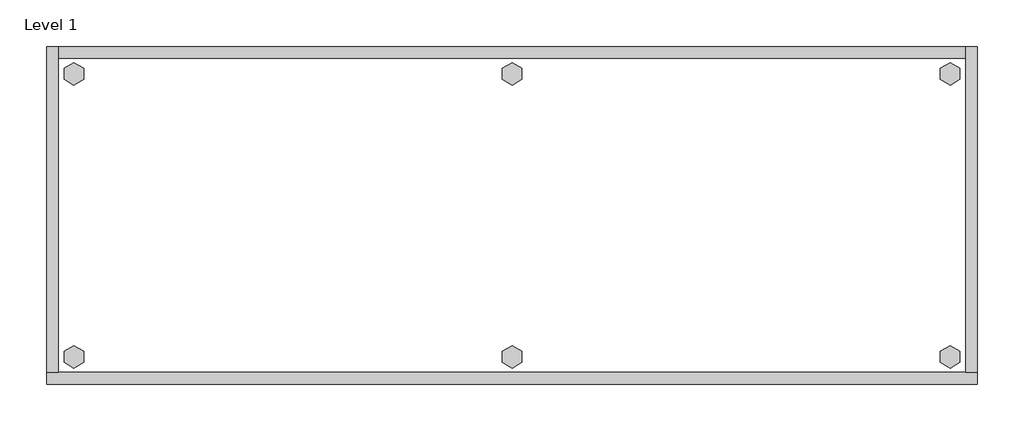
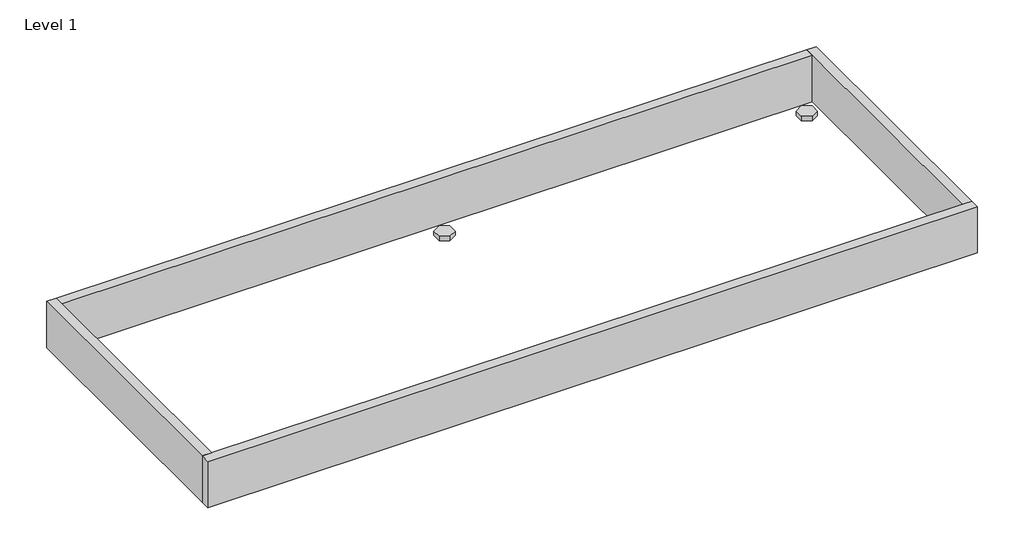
# One storey, incomplete: 1 furniture element.
"""IFC4 building model written with IfcOpenShell, lengths in millimetres."""

from ifc_helpers import new_model, si_unit, origin, place, context, project, spatial, transform, mapped, element, save
from components import furniture_61016704

model = new_model("IFC4")

# Units and contexts
model_context = context("Model", 3, world=origin())
ifc_project = project(units=[si_unit("LENGTHUNIT", "METRE", prefix="MILLI")], contexts=[model_context])

# Site, building, storey
site = spatial("IfcSite", under=ifc_project)
building = spatial("IfcBuilding", under=site)
storey = spatial("IfcBuildingStorey", under=building, Name="Level 1", Elevation=0.0)

# Furniture
placement = place(None, origin())
furniture_shape = furniture_61016704(model_context)
element("IfcFurniture", 1, ObjectType="HermanMiller_Mora_CH250_PlinthBaseFinished : Flush on Both/Inline HPL 24D 60W", at=placement, inside=storey, context=model_context, shape_type="MappedRepresentation", body=[
    mapped(furniture_shape, transform((0.0, 0.0, 0.0), x_axis=(1.0, 0.0, 0.0), y_axis=(0.0, 1.0, 0.0), z_axis=(0.0, 0.0, 1.0))),
])

save(model, "model.ifc")
